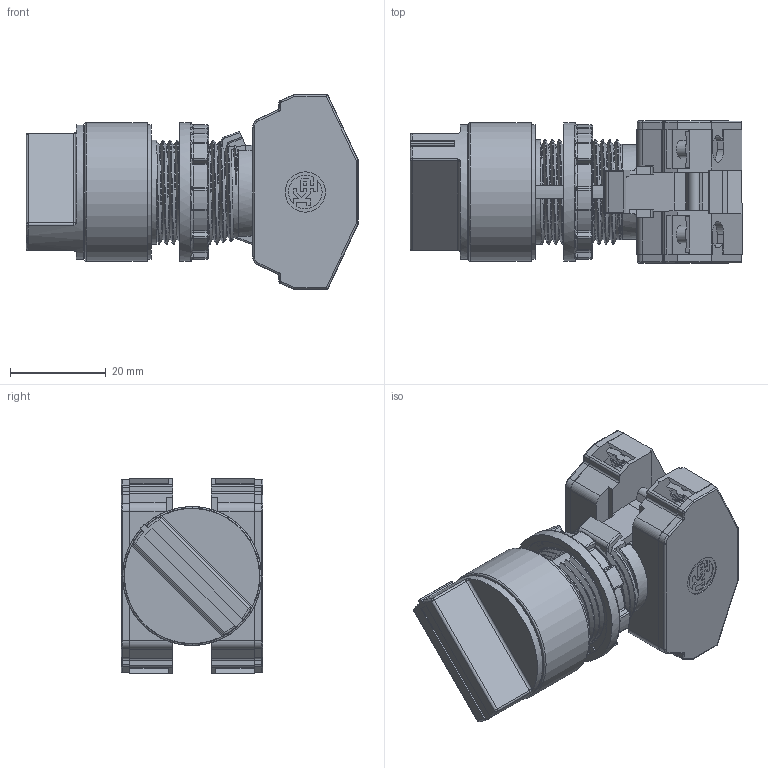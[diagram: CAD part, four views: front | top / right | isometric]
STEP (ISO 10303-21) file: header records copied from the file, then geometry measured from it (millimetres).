
FILE_DESCRIPTION(('Seletor Compacto com Manopla R22 2 Posicoes sem Retorno 1NA+1NF ou 2NA ou 2NF'),'2;1');
FILE_NAME('K:\Workfolder\Bibl\3DWeb\Serie\C9\kp_c9_c9sn2_2Cont_step.stp','2011-04-02T14:54:09',('DIE'),('KAP'),'Autodesk Inventor 2011','Autodesk Inventor 2011','Direitos reservados. Proibido reproducao, cedencia ou revelacao de conteudo a terceiros, salvo com autorizacao. ');
FILE_SCHEMA(('AUTOMOTIVE_DESIGN { 1 0 10303 214 1 1 1 1 }'));
Length unit declared in the file: millimetre
Products named in the file (3): C9SN2_2Cont; C9SN2; C9AB_2Cont
Assembly tree (2 placements, depth 2):
  C9SN2_2Cont
    C9SN2
    C9AB_2Cont
Bounding box: 69.3 x 29.6 x 40.6 mm (x, y, z)
Volume: 37152.6 mm3; surface area: 17692.2 mm2
Topology: 3 solids, 10 shells, 1763 faces, 4789 edges, 2981 vertices
Faces by surface type: plane 950, cylinder 504, torus 128, bspline 86, sphere 61, cone 34
Full cylindrical faces by diameter (mm): 2.8 x4, 3 x4, 3.1 x4, 3.3 x4, 3.5 x4, 3.7 x4, 5.5 x1, 5.8 x1, 8.4 x1, 8.6 x1, 9 x1, 21.85 x1, 22 x1, 22.491 x3, 26 x1, 27.1 x1, 27.5 x1, 28 x1, 28.2 x1, 29 x2
Entity records: 60922 total; most frequent: CARTESIAN_POINT 15159, ORIENTED_EDGE 9294, DIRECTION 9094, EDGE_CURVE 4647, AXIS2_PLACEMENT_3D 3060, VECTOR 2974, LINE 2974, VERTEX_POINT 2955
